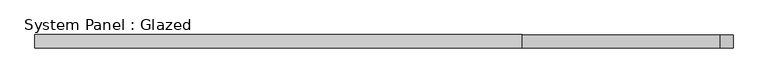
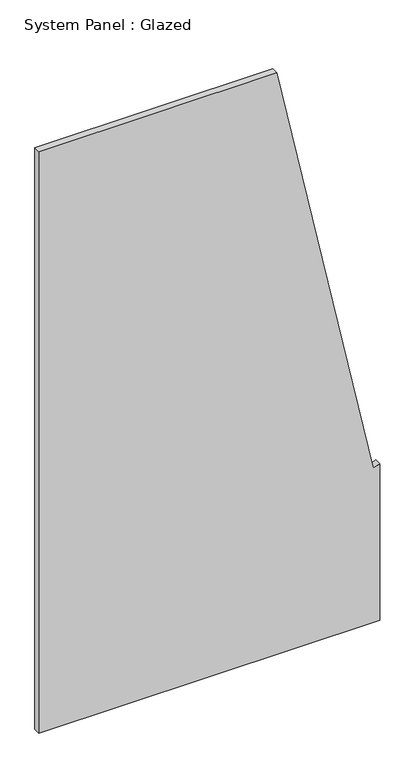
"""IFC4 building model written with IfcOpenShell, lengths in millimetres: plate geometry, System Panel : Glazed."""

from ifc_helpers import new_model, si_unit, frame, origin, place, context, project, spatial, polyline, outline, extrude, source, transform, mapped, element, save


def system_panel_glazed_97ec93bc(model_context):
    return source(origin(), model_context, "Body", "SweptSolid", [
        extrude(outline(polyline([(0.0, -651.6601177), (0.0, 651.6601177), (632.263961, 651.6601177), (621.8083026, 627.7655453), (2350.0, 258.207511), (2350.0, -651.6601177), (0.0, -651.6601177)])), frame((0.0, -49.5, 0.0), z_axis=(0.0, 1.0, 0.0), x_axis=(0.0, 0.0, 1.0)), (0.0, 0.0, 1.0), 25.0),
    ])


if __name__ == "__main__":
    model = new_model("IFC4")
    model_context = context("Model", 3, world=origin())
    ifc_project = project(units=[si_unit("LENGTHUNIT", "METRE", prefix="MILLI")], contexts=[model_context])
    site = spatial("IfcSite", under=ifc_project)
    building = spatial("IfcBuilding", under=site)
    placement = place(None, origin())
    system_panel_glazed_shape = system_panel_glazed_97ec93bc(model_context)
    element("IfcPlate", 1, ObjectType="System Panel : Glazed", at=placement, inside=building, context=model_context, shape_type="MappedRepresentation", body=[
        mapped(system_panel_glazed_shape, transform((0.0, 0.0, 0.0), x_axis=(1.0, 0.0, 0.0), y_axis=(0.0, 1.0, 0.0), z_axis=(0.0, 0.0, 1.0))),
    ])
    save(model, "model.ifc")
